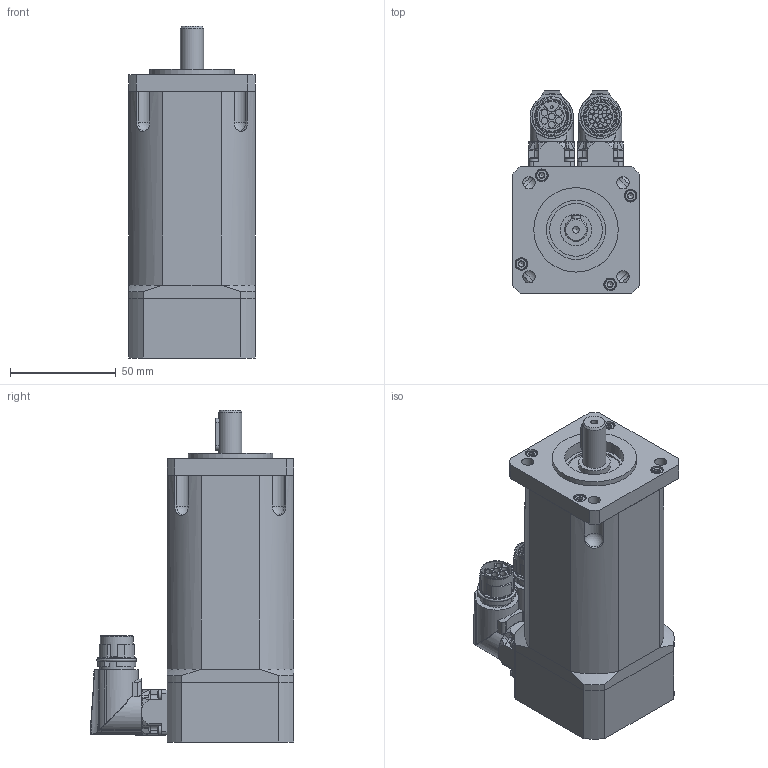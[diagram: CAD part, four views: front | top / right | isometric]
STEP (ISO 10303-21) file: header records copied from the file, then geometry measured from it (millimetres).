
FILE_DESCRIPTION(/* description */ (''),/* implementation_level */ '2;1');
FILE_NAME(/* name */ 'C:\Users\Public\Documents\Autodesk\Inventor LT 2014\Workspace\Motori Sito WEB\TG_2\STEP DSM5_2x\DSM5_21_x198.stp',/* time_stamp */ '2021-03-12T14:47:56+01:00',/* author */ ('marcor'),/* organization */ (''),/* preprocessor_version */ 'ST-DEVELOPER v15.2',/* originating_system */ 'Autodesk Inventor LT ',/* authorisation */ '');
FILE_SCHEMA (('AUTOMOTIVE_DESIGN { 1 0 10303 214 3 1 1 }'));
Length unit declared in the file: millimetre
Products named in the file (1): DSM5_21_x198
Bounding box: 60 x 96.35 x 157.35 mm (x, y, z)
Volume: 478539.4 mm3; surface area: 77483.7 mm2
Topology: 16 solids, 28 shells, 1477 faces, 3849 edges, 2515 vertices
Faces by surface type: plane 636, cylinder 509, cone 164, torus 96, bspline 52, sphere 20
Full cylindrical faces by diameter (mm): 1.3 x1, 2.1 x15, 2.224 x8, 2.459 x12, 2.5 x8, 2.7 x8, 2.88 x8, 3 x12, 3.2 x18, 3.242 x1, 4.8 x2, 5 x2, 5.5 x12, 5.8 x4, 6 x12, 11 x1, 11.7 x1, 13.4 x1, 13.8 x1, 14.2 x2, 14.95 x1, 15.54 x2, 16 x2, 16.8 x2, 19.7 x2, 25 x1, 28 x1, 32 x2, 40 x1
Entity records: 48673 total; most frequent: CARTESIAN_POINT 13508, ORIENTED_EDGE 6930, DIRECTION 6776, EDGE_CURVE 3465, AXIS2_PLACEMENT_3D 2661, VERTEX_POINT 2411, EDGE_LOOP 1910, ADVANCED_FACE 1471
